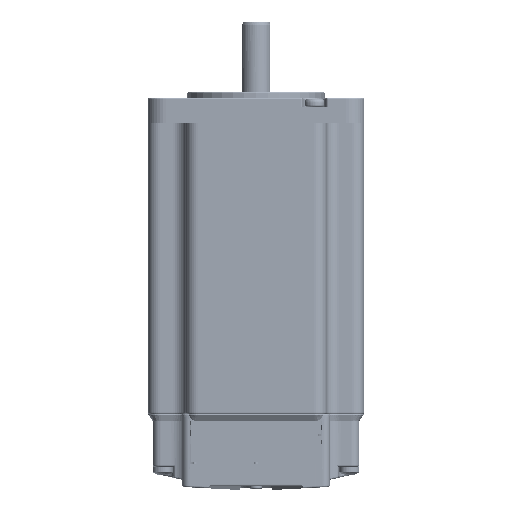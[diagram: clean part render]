
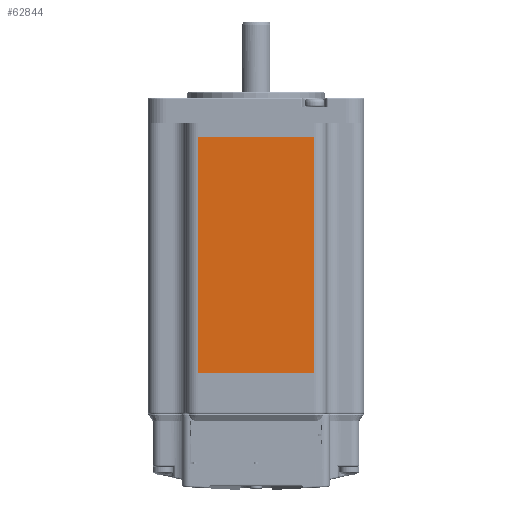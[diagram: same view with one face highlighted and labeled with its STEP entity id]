
A CAD part, left-side view. The second image highlights one B-rep face of the part: STEP entity #62844.
In plain terms, the highlighted planar face has unit normal (-1, 0, 0).
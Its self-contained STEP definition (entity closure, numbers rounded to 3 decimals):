
#53675=DIRECTION('',(0.,1.,0.));
#53676=VECTOR('',#53675,32.);
#53677=CARTESIAN_POINT('',(-30.,-16.,32.75));
#53678=LINE('',#53677,#53676);
#53682=DIRECTION('',(0.,1.,0.));
#53683=VECTOR('',#53682,32.);
#53684=CARTESIAN_POINT('',(-30.,-16.,-32.75));
#53685=LINE('',#53684,#53683);
#56938=DIRECTION('',(0.,0.,-1.));
#56939=VECTOR('',#56938,65.5);
#56940=CARTESIAN_POINT('',(-30.,-16.,32.75));
#56941=LINE('',#56940,#56939);
#57176=DIRECTION('',(0.,0.,1.));
#57177=VECTOR('',#57176,65.5);
#57178=CARTESIAN_POINT('',(-30.,16.,-32.75));
#57179=LINE('',#57178,#57177);
#60341=CARTESIAN_POINT('',(-30.,-16.,32.75));
#60342=CARTESIAN_POINT('',(-30.,-16.,-32.75));
#60343=VERTEX_POINT('',#60341);
#60344=VERTEX_POINT('',#60342);
#60661=CARTESIAN_POINT('',(-30.,16.,-32.75));
#60663=VERTEX_POINT('',#60661);
#61719=CARTESIAN_POINT('',(-30.,16.,32.75));
#61720=VERTEX_POINT('',#61719);
#62830=CARTESIAN_POINT('',(-30.,0.,32.75));
#62831=DIRECTION('',(1.,0.,0.));
#62832=DIRECTION('',(0.,0.,-1.));
#62833=AXIS2_PLACEMENT_3D('',#62830,#62831,#62832);
#62834=PLANE('',#62833);
#62836=ORIENTED_EDGE('',*,*,#62835,.T.);
#62838=ORIENTED_EDGE('',*,*,#62837,.T.);
#62839=ORIENTED_EDGE('',*,*,#61937,.F.);
#62841=ORIENTED_EDGE('',*,*,#62840,.T.);
#62842=EDGE_LOOP('',(#62836,#62838,#62839,#62841));
#62843=FACE_OUTER_BOUND('',#62842,.F.);
#62844=ADVANCED_FACE('',(#62843),#62834,.F.);
#61937=EDGE_CURVE('',#60343,#61720,#53678,.T.);
#62835=EDGE_CURVE('',#60344,#60663,#53685,.T.);
#62837=EDGE_CURVE('',#60663,#61720,#57179,.T.);
#62840=EDGE_CURVE('',#60343,#60344,#56941,.T.);
